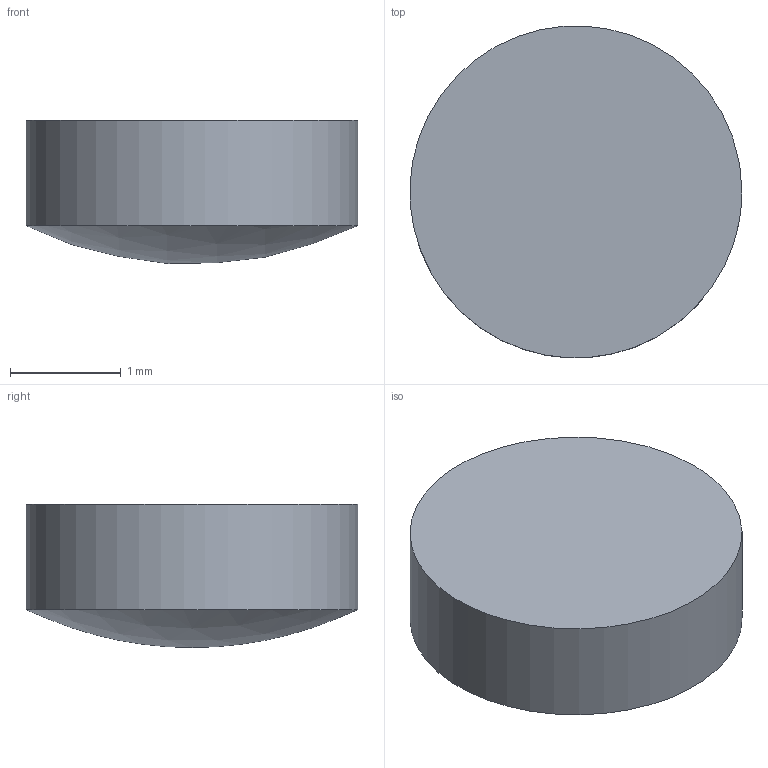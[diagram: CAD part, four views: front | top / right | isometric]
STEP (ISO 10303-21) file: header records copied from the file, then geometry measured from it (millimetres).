
FILE_DESCRIPTION ((), '1');
FILE_NAME ('C:\Users\r.sato\Desktop\<', '2016-12-19T18:48:19', ('Unknown'), ('Unknown'), 'HarmonyWare STEP v1.9.13', 'HarmonyWare Translators', '');
FILE_SCHEMA (('CONFIG_CONTROL_DESIGN'));
Length unit declared in the file: millimetre
Products named in the file (1): NONE
Bounding box: 3 x 3 x 1.29 mm (x, y, z)
Volume: 8 mm3; surface area: 23.5 mm2
Topology: 1 solids, 1 shells, 3 faces, 3 edges, 2 vertices
Faces by surface type: sphere 1, plane 1, cylinder 1
Full cylindrical faces by diameter (mm): 3 x1
Entity records: 151 total; most frequent: CARTESIAN_POINT 25, PERSON 8, ORGANIZATION 8, PERSON_AND_ORGANIZATION 8, ORIENTED_EDGE 6, DIRECTION 6, PERSON_AND_ORGANIZATION_ROLE 5, CC_DESIGN_PERSON_AND_ORGANIZATION_ASSIGNMENT 5
